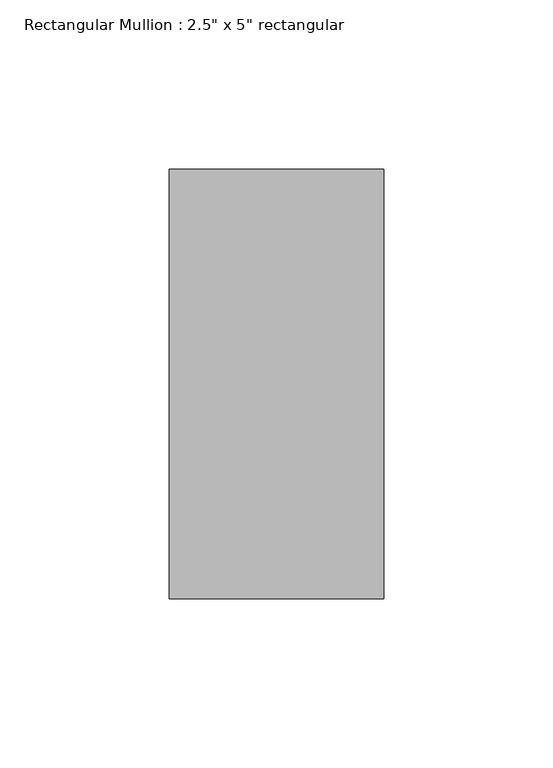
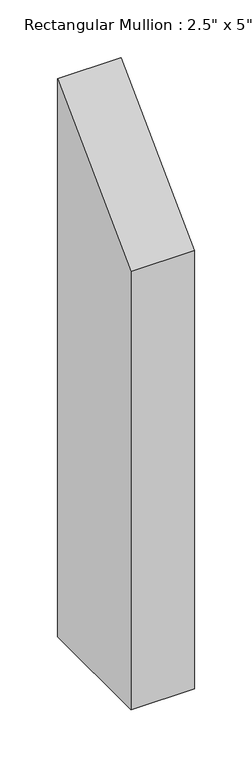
"""IFC4 building model written with IfcOpenShell, lengths in millimetres: member geometry."""

from ifc_helpers import new_model, si_unit, frame, origin, place, context, project, spatial, polyline, outline, extrude, source, transform, mapped, element, save


def member_bb554449(model_context):
    return source(origin(), model_context, "Body", "SweptSolid", [
        extrude(outline(polyline([(-63.5, -63.5), (63.5, 63.5), (63.5, -527.05), (-63.5, -527.05), (-63.5, -63.5)])), frame((-31.75, 0.0, 0.0), z_axis=(1.0, 0.0, 0.0), x_axis=(0.0, 1.0, 0.0)), (0.0, 0.0, 1.0), 63.5),
    ])


if __name__ == "__main__":
    model = new_model("IFC4")
    model_context = context("Model", 3, world=origin())
    ifc_project = project(units=[si_unit("LENGTHUNIT", "METRE", prefix="MILLI")], contexts=[model_context])
    site = spatial("IfcSite", under=ifc_project)
    building = spatial("IfcBuilding", under=site)
    placement = place(None, origin())
    member_shape = member_bb554449(model_context)
    element("IfcMember", 1, ObjectType="Rectangular Mullion : 2.5\" x 5\" rectangular", at=placement, inside=building, context=model_context, shape_type="MappedRepresentation", body=[
        mapped(member_shape, transform((0.0, 0.0, 0.0), x_axis=(1.0, 0.0, 0.0), y_axis=(0.0, 1.0, 0.0), z_axis=(0.0, 0.0, 1.0))),
    ])
    save(model, "model.ifc")
